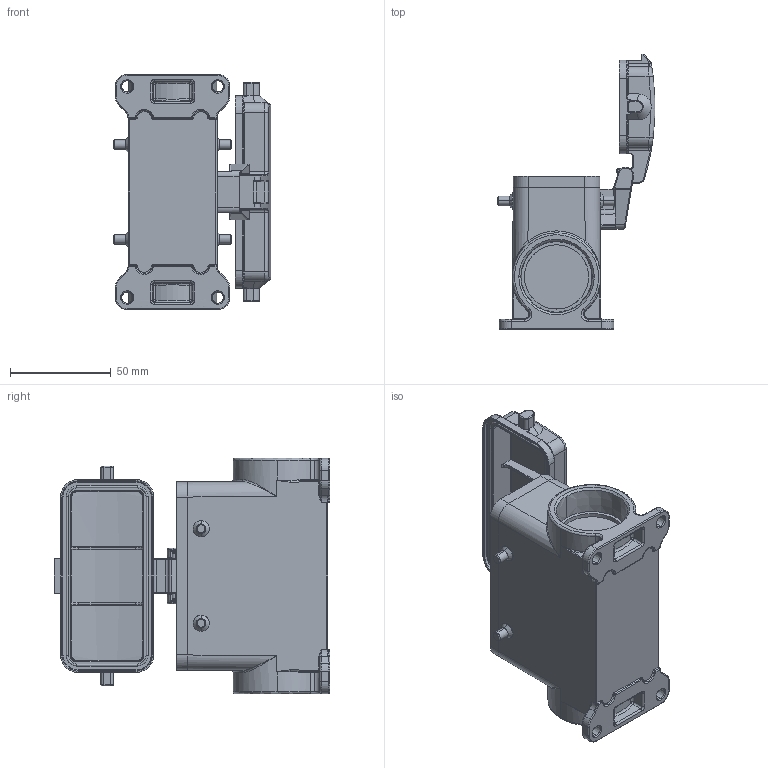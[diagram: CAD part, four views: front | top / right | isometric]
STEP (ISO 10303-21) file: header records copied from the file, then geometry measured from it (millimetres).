
FILE_DESCRIPTION (( 'STEP AP203' ), '1' );
FILE_NAME ('H16B-SDR-BO-M25.STEP', '2020-11-21T05:34:26', ( '' ), ( '' ), 'SwSTEP 2.0', 'SolidWorks 2016', '' );
FILE_SCHEMA (( 'CONFIG_CONTROL_DESIGN' ));
Length unit declared in the file: millimetre
Products named in the file (6): H16B-SDR-BO-M25; 16b-surface-m-highconstruction; 0000161120; 16a-baohugaizhou; b-xl-t-gudingjian; h16bmifengquan
Assembly tree (5 placements, depth 2):
  H16B-SDR-BO-M25
    h16bmifengquan
    16b-surface-m-highconstruction
    16a-baohugaizhou
    b-xl-t-gudingjian
    0000161120
Bounding box: 78.35 x 136.92 x 117 mm (x, y, z)
Volume: 144715.7 mm3; surface area: 78710.4 mm2
Topology: 5 solids, 5 shells, 990 faces, 2367 edges, 1404 vertices
Faces by surface type: cylinder 366, bspline 317, plane 227, cone 80
Entity records: 41492 total; most frequent: CARTESIAN_POINT 20538, ORIENTED_EDGE 4722, DIRECTION 3623, EDGE_CURVE 2361, VERTEX_POINT 1404, AXIS2_PLACEMENT_3D 1327, EDGE_LOOP 1031, ADVANCED_FACE 990
